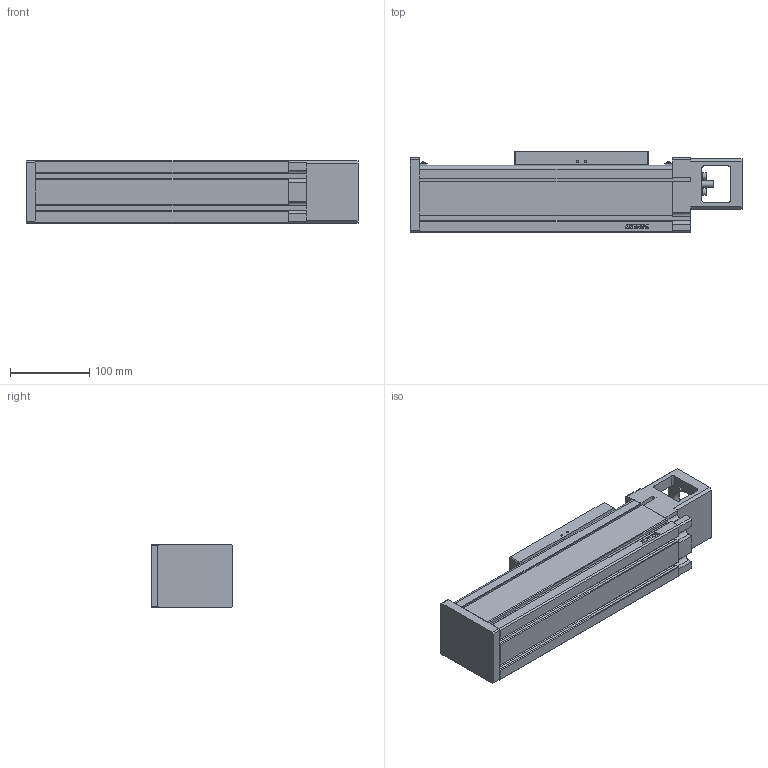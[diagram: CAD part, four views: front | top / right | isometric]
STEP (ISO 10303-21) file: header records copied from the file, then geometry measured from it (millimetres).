
FILE_DESCRIPTION(/* description */ (''),/* implementation_level */ '2;1');
FILE_NAME(/* name */ 'D:\混合母檔20191031\混和母檔\混和母檔\bin\Debug\Download\3D\KU80-5C-100AF0\KU80-5C-100AF0.stp',/* time_stamp */ '2019-11-04T16:40:15+08:00',/* author */ ('user'),/* organization */ (''),/* preprocessor_version */ 'ST-DEVELOPER v16.13',/* originating_system */ 'Autodesk Inventor 2018',/* authorisation */ '');
FILE_SCHEMA (('AUTOMOTIVE_DESIGN { 1 0 10303 214 3 1 1 }'));
Length unit declared in the file: millimetre
Products named in the file (3): KU80-5C-100AF0; KU80-F0-BP; KU80-SL
Assembly tree (2 placements, depth 2):
  KU80-5C-100AF0
    KU80-F0-BP
    KU80-SL
Bounding box: 420 x 103 x 80 mm (x, y, z)
Volume: 2634684.5 mm3; surface area: 258007.3 mm2
Topology: 2 solids, 10 shells, 862 faces, 2315 edges, 1508 vertices
Faces by surface type: plane 509, bspline 136, cylinder 104, cone 81, torus 28, sphere 4
Full cylindrical faces by diameter (mm): 2.459 x4, 2.729 x4, 3 x4, 3.242 x4, 3.5 x4, 4.134 x16, 5 x4, 5.5 x8, 5.6 x2, 8 x1, 8.5 x4, 12 x1, 46.5 x1
Entity records: 27990 total; most frequent: CARTESIAN_POINT 7413, ORIENTED_EDGE 4362, DIRECTION 3790, EDGE_CURVE 2181, VERTEX_POINT 1469, LINE 1298, VECTOR 1298, AXIS2_PLACEMENT_3D 1246
